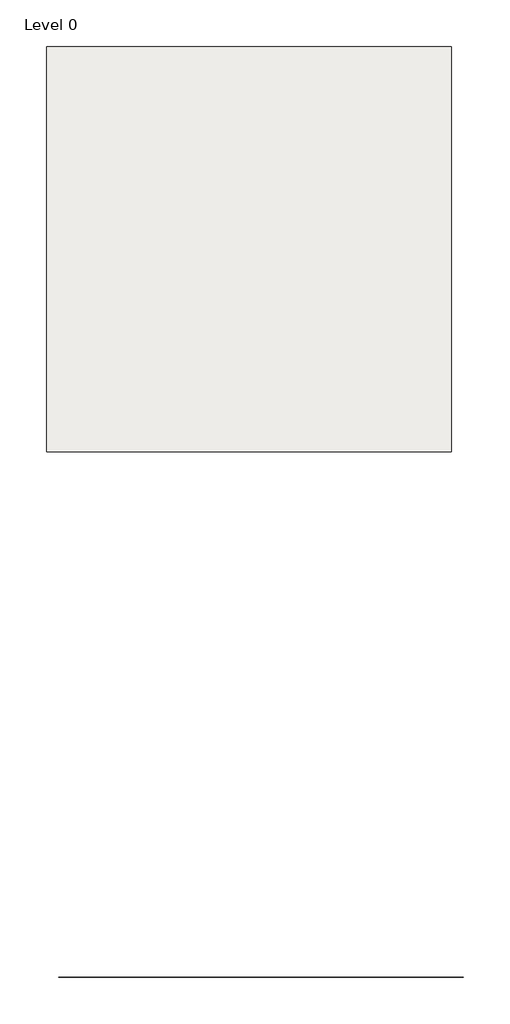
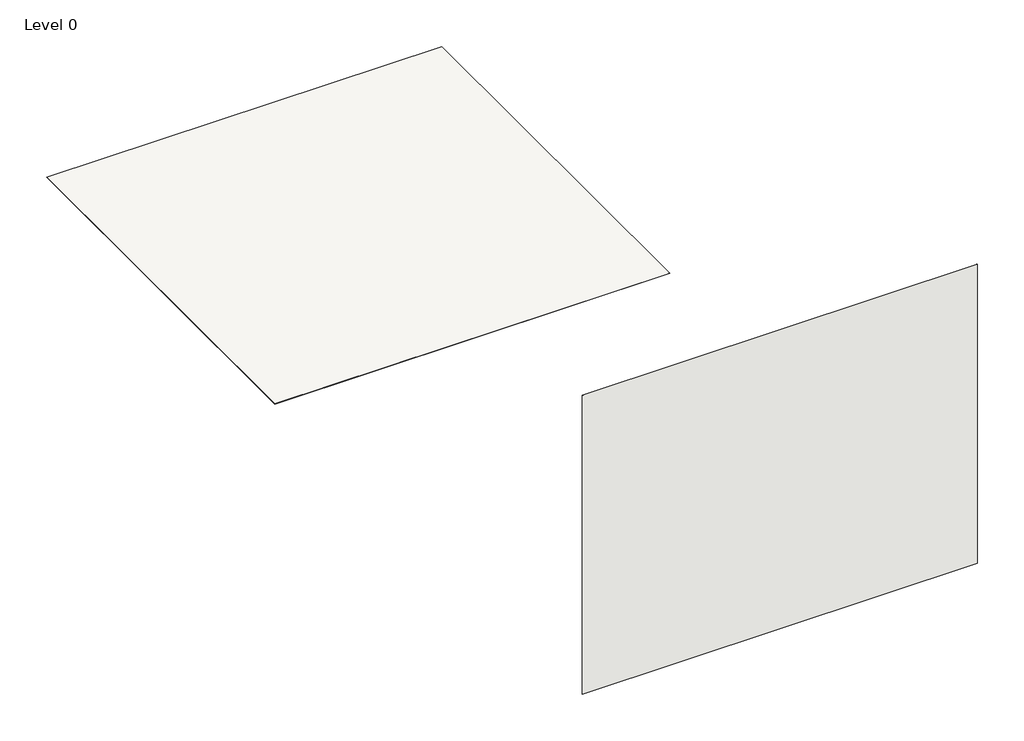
# One storey: 2 coverings.
"""IFC4 building model written with IfcOpenShell, lengths in millimetres."""

from ifc_helpers import new_model, si_unit, frame, origin, origin_with_axes, place, context, project, spatial, polyline, outline, extrude, element, save

model = new_model("IFC4")

# Units and contexts
model_context = context("Model", 3, world=origin())
ifc_project = project(units=[si_unit("LENGTHUNIT", "METRE", prefix="MILLI")], contexts=[model_context])

# Site, building, storey
site = spatial("IfcSite", under=ifc_project)
building = spatial("IfcBuilding", under=site)
storey = spatial("IfcBuildingStorey", under=building, Name="Level 0", Elevation=0.0)

# Coverings
placement = place(None, origin())
element("IfcCovering", 1, ObjectType="NBS_DeltaMembraneSystemsLtd_PolysulfideConstructionJointSealants_KosterJointSealantFS-V", at=placement, inside=storey, context=model_context, shape_type="SweptSolid", body=[
    extrude(outline(polyline([(1524.0, -5624.0), (1524.0, -3124.0), (4024.0, -3124.0), (4024.0, -5624.0), (1524.0, -5624.0)])), frame((0.0, 0.0, -0.8), z_axis=(0.0, 0.0, 1.0), x_axis=(1.0, 0.0, 0.0)), (0.0, 0.0, 1.0), 0.8),
])
element("IfcCovering", 2, ObjectType="NBS_DeltaMembraneSystemsLtd_PolysulfideConstructionJointSealants_KosterJointSealantFS-V", at=placement, inside=storey, context=model_context, shape_type="SweptSolid", body=[
    extrude(outline(polyline([(1598.6771853, -8868.9046392), (4098.6771853, -8868.9046392), (4098.6771853, -8869.7046392), (1598.6771853, -8869.7046392), (1598.6771853, -8868.9046392)])), origin_with_axes(), (0.0, 0.0, 1.0), 2000.0),
])

save(model, "model.ifc")
